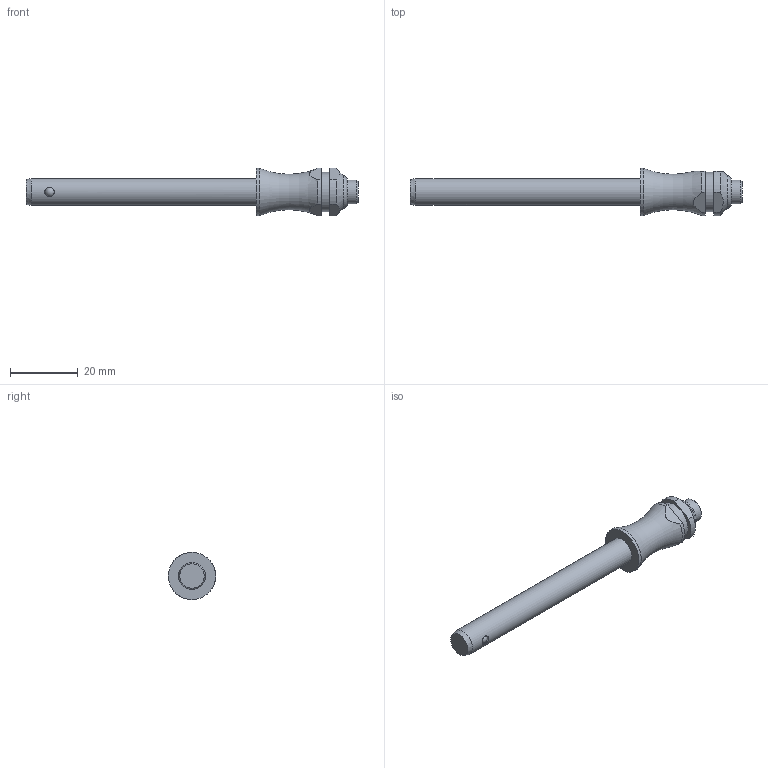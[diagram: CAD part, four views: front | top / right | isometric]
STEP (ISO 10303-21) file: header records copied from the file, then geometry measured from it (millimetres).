
FILE_DESCRIPTION( ( 'STEP AP203' ), '1' );
FILE_NAME( 'C:/Temp/Ganter_Step_05_03_2020/data/3_1/gn113_3/Stainless Steel-Ball lock pin GN 113.3-8-60 (activated).stp', '2020-03-12T08:18:27', ( 'License CC BY-ND 4.0' ), ( 'CADENAS' ), ' ', 'PARTsolutions', ' ' );
FILE_SCHEMA( ( 'CONFIG_CONTROL_DESIGN' ) );
Length unit declared in the file: millimetre
Products named in the file (1): _Stainless Steel-Ball lock pin GN 113.3-8-60 (activated)
Bounding box: 98.35 x 14 x 14 mm (x, y, z)
Volume: 6517.2 mm3; surface area: 3131.6 mm2
Topology: 1 solids, 1 shells, 30 faces, 72 edges, 45 vertices
Faces by surface type: cylinder 12, plane 11, cone 3, torus 2, sphere 2
Full cylindrical faces by diameter (mm): 2.78 x2, 7 x1, 8 x1, 11.6 x1, 14 x1
Entity records: 968 total; most frequent: CARTESIAN_POINT 321, DIRECTION 130, ORIENTED_EDGE 102, AXIS2_PLACEMENT_3D 56, EDGE_CURVE 51, EDGE_LOOP 46, VERTEX_POINT 39, FACE_OUTER_BOUND 38
